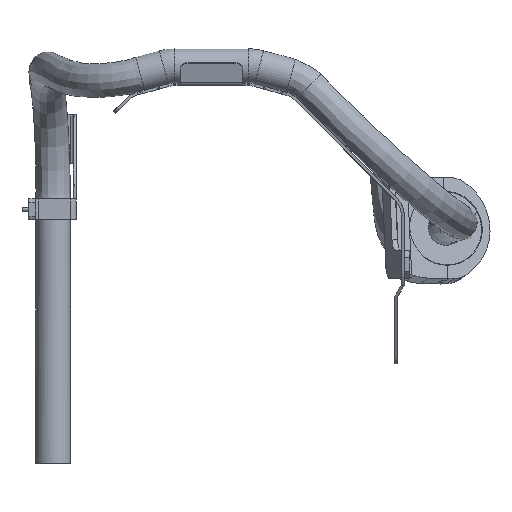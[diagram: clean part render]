
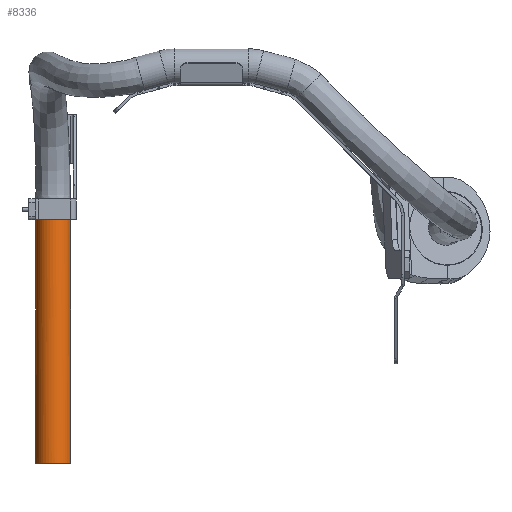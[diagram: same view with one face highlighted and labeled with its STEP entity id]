
A CAD part, left-side view. The second image highlights one B-rep face of the part: STEP entity #8336.
In plain terms, the highlighted cylindrical face has radius 25 mm (diameter 50 mm), a full revolution.
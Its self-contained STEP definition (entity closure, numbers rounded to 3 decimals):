
#683 = CARTESIAN_POINT ( 'NONE',  ( 32., 25., 714.5 ) ) ;
#1443 = EDGE_LOOP ( 'NONE', ( #17071 ) ) ;
#4195 = FACE_OUTER_BOUND ( 'NONE', #17161, .T. ) ;
#5210 = DIRECTION ( 'NONE',  ( 1., 0., 0. ) ) ;
#5834 = DIRECTION ( 'NONE',  ( 0.205, -0.979, 0. ) ) ;
#6694 = CYLINDRICAL_SURFACE ( 'NONE', #16093, 25. ) ;
#7398 = DIRECTION ( 'NONE',  ( 0., 0., 1. ) ) ;
#8336 = ADVANCED_FACE ( 'NONE', ( #9796, #4195 ), #6694, .T. ) ;
#8766 = CARTESIAN_POINT ( 'NONE',  ( 7., 25., 366.563 ) ) ;
#9140 = CARTESIAN_POINT ( 'NONE',  ( 12.119, 0.53, 366.563 ) ) ;
#9387 = EDGE_CURVE ( 'NONE', #14313, #14313, #11423, .T. ) ;
#9796 = FACE_OUTER_BOUND ( 'NONE', #1443, .T. ) ;
#9804 = CARTESIAN_POINT ( 'NONE',  ( 7., 25., 366.563 ) ) ;
#9983 = DIRECTION ( 'NONE',  ( 0., 0., -1. ) ) ;
#10220 = VERTEX_POINT ( 'NONE', #683 ) ;
#10993 = ORIENTED_EDGE ( 'NONE', *, *, #9387, .F. ) ;
#11423 = CIRCLE ( 'NONE', #13465, 25. ) ;
#12590 = EDGE_CURVE ( 'NONE', #10220, #10220, #16316, .T. ) ;
#12784 = DIRECTION ( 'NONE',  ( 0.966, 0.259, 0. ) ) ;
#13100 = AXIS2_PLACEMENT_3D ( 'NONE', #17776, #16288, #5210 ) ;
#13465 = AXIS2_PLACEMENT_3D ( 'NONE', #9804, #9983, #5834 ) ;
#14313 = VERTEX_POINT ( 'NONE', #9140 ) ;
#16093 = AXIS2_PLACEMENT_3D ( 'NONE', #8766, #7398, #12784 ) ;
#16288 = DIRECTION ( 'NONE',  ( 0., 0., 1. ) ) ;
#16316 = CIRCLE ( 'NONE', #13100, 25. ) ;
#17071 = ORIENTED_EDGE ( 'NONE', *, *, #12590, .F. ) ;
#17161 = EDGE_LOOP ( 'NONE', ( #10993 ) ) ;
#17776 = CARTESIAN_POINT ( 'NONE',  ( 7., 25., 714.5 ) ) ;
